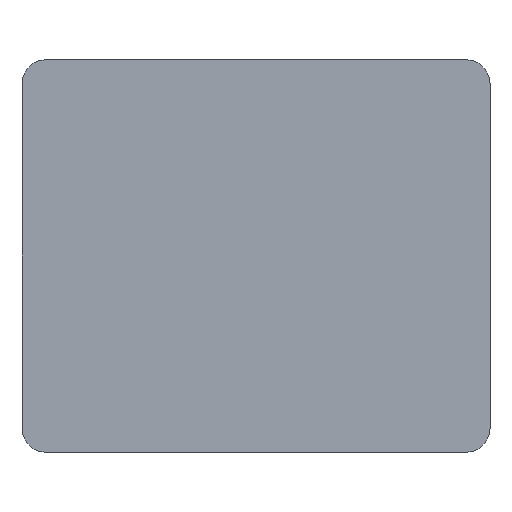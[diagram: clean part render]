
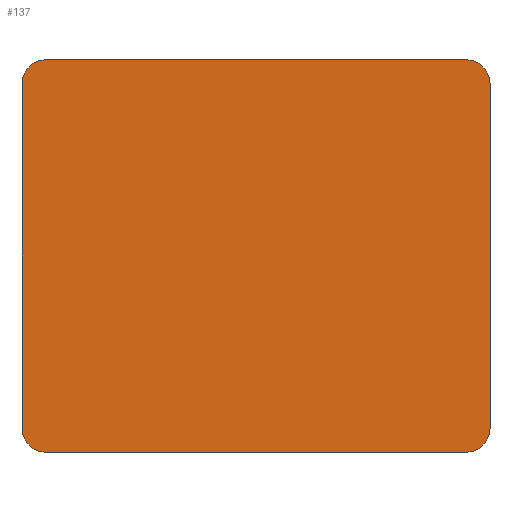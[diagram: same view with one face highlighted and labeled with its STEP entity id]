
A CAD part, front view. The second image highlights one B-rep face of the part: STEP entity #137.
In plain terms, the highlighted planar face has unit normal (0, -1, 0).
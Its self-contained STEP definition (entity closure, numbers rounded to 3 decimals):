
#21 = EDGE_CURVE('',#22,#24,#26,.T.);
#22 = VERTEX_POINT('',#23);
#23 = CARTESIAN_POINT('',(-46.5,-44.2,-32.4));
#24 = VERTEX_POINT('',#25);
#25 = CARTESIAN_POINT('',(-46.5,-44.2,-9.6));
#26 = SURFACE_CURVE('',#27,(#31,#43),.PCURVE_S1.);
#27 = LINE('',#28,#29);
#28 = CARTESIAN_POINT('',(-46.5,-44.2,-34.));
#29 = VECTOR('',#30,1.);
#30 = DIRECTION('',(0.,0.,1.));
#31 = PCURVE('',#32,#37);
#32 = PLANE('',#33);
#33 = AXIS2_PLACEMENT_3D('',#34,#35,#36);
#34 = CARTESIAN_POINT('',(-46.5,-44.2,-34.));
#35 = DIRECTION('',(-1.,-0.,0.));
#36 = DIRECTION('',(0.,0.,-1.));
#37 = DEFINITIONAL_REPRESENTATION('',(#38),#42);
#38 = LINE('',#39,#40);
#39 = CARTESIAN_POINT('',(-0.,-0.));
#40 = VECTOR('',#41,1.);
#41 = DIRECTION('',(-1.,-0.));
#42 = ( GEOMETRIC_REPRESENTATION_CONTEXT(2) 
PARAMETRIC_REPRESENTATION_CONTEXT() REPRESENTATION_CONTEXT('2D SPACE',''
  ) );
#43 = PCURVE('',#44,#49);
#44 = PLANE('',#45);
#45 = AXIS2_PLACEMENT_3D('',#46,#47,#48);
#46 = CARTESIAN_POINT('',(-46.5,-44.2,-34.));
#47 = DIRECTION('',(-0.,1.,0.));
#48 = DIRECTION('',(0.,0.,-1.));
#49 = DEFINITIONAL_REPRESENTATION('',(#50),#54);
#50 = LINE('',#51,#52);
#51 = CARTESIAN_POINT('',(-0.,-0.));
#52 = VECTOR('',#53,1.);
#53 = DIRECTION('',(-1.,0.));
#54 = ( GEOMETRIC_REPRESENTATION_CONTEXT(2) 
PARAMETRIC_REPRESENTATION_CONTEXT() REPRESENTATION_CONTEXT('2D SPACE',''
  ) );
#72 = CYLINDRICAL_SURFACE('',#73,1.6);
#73 = AXIS2_PLACEMENT_3D('',#74,#75,#76);
#74 = CARTESIAN_POINT('',(-48.1,-44.2,-32.4));
#75 = DIRECTION('',(-0.,1.,-0.));
#76 = DIRECTION('',(1.,-0.,-0.));
#126 = CYLINDRICAL_SURFACE('',#127,1.6);
#127 = AXIS2_PLACEMENT_3D('',#128,#129,#130);
#128 = CARTESIAN_POINT('',(-48.1,-44.2,-9.6));
#129 = DIRECTION('',(-0.,1.,-0.));
#130 = DIRECTION('',(1.,-0.,-0.));
#137 = ADVANCED_FACE('',(#138),#44,.F.);
#138 = FACE_BOUND('',#139,.T.);
#139 = EDGE_LOOP('',(#140,#170,#192,#193,#221,#249,#278,#306));
#140 = ORIENTED_EDGE('',*,*,#141,.F.);
#141 = EDGE_CURVE('',#142,#144,#146,.T.);
#142 = VERTEX_POINT('',#143);
#143 = CARTESIAN_POINT('',(-48.1,-44.2,-34.));
#144 = VERTEX_POINT('',#145);
#145 = CARTESIAN_POINT('',(-75.9,-44.2,-34.));
#146 = SURFACE_CURVE('',#147,(#151,#158),.PCURVE_S1.);
#147 = LINE('',#148,#149);
#148 = CARTESIAN_POINT('',(-46.5,-44.2,-34.));
#149 = VECTOR('',#150,1.);
#150 = DIRECTION('',(-1.,-0.,0.));
#151 = PCURVE('',#44,#152);
#152 = DEFINITIONAL_REPRESENTATION('',(#153),#157);
#153 = LINE('',#154,#155);
#154 = CARTESIAN_POINT('',(-0.,-0.));
#155 = VECTOR('',#156,1.);
#156 = DIRECTION('',(-0.,1.));
#157 = ( GEOMETRIC_REPRESENTATION_CONTEXT(2) 
PARAMETRIC_REPRESENTATION_CONTEXT() REPRESENTATION_CONTEXT('2D SPACE',''
  ) );
#158 = PCURVE('',#159,#164);
#159 = PLANE('',#160);
#160 = AXIS2_PLACEMENT_3D('',#161,#162,#163);
#161 = CARTESIAN_POINT('',(-46.5,-44.2,-34.));
#162 = DIRECTION('',(0.,0.,1.));
#163 = DIRECTION('',(1.,0.,0.));
#164 = DEFINITIONAL_REPRESENTATION('',(#165),#169);
#165 = LINE('',#166,#167);
#166 = CARTESIAN_POINT('',(0.,-0.));
#167 = VECTOR('',#168,1.);
#168 = DIRECTION('',(-1.,0.));
#169 = ( GEOMETRIC_REPRESENTATION_CONTEXT(2) 
PARAMETRIC_REPRESENTATION_CONTEXT() REPRESENTATION_CONTEXT('2D SPACE',''
  ) );
#170 = ORIENTED_EDGE('',*,*,#171,.F.);
#171 = EDGE_CURVE('',#22,#142,#172,.T.);
#172 = SURFACE_CURVE('',#173,(#178,#185),.PCURVE_S1.);
#173 = CIRCLE('',#174,1.6);
#174 = AXIS2_PLACEMENT_3D('',#175,#176,#177);
#175 = CARTESIAN_POINT('',(-48.1,-44.2,-32.4));
#176 = DIRECTION('',(0.,1.,0.));
#177 = DIRECTION('',(-0.,-0.,1.));
#178 = PCURVE('',#44,#179);
#179 = DEFINITIONAL_REPRESENTATION('',(#180),#184);
#180 = CIRCLE('',#181,1.6);
#181 = AXIS2_PLACEMENT_2D('',#182,#183);
#182 = CARTESIAN_POINT('',(-1.6,1.6));
#183 = DIRECTION('',(-1.,0.));
#184 = ( GEOMETRIC_REPRESENTATION_CONTEXT(2) 
PARAMETRIC_REPRESENTATION_CONTEXT() REPRESENTATION_CONTEXT('2D SPACE',''
  ) );
#185 = PCURVE('',#72,#186);
#186 = DEFINITIONAL_REPRESENTATION('',(#187),#191);
#187 = LINE('',#188,#189);
#188 = CARTESIAN_POINT('',(-1.571,0.));
#189 = VECTOR('',#190,1.);
#190 = DIRECTION('',(1.,0.));
#191 = ( GEOMETRIC_REPRESENTATION_CONTEXT(2) 
PARAMETRIC_REPRESENTATION_CONTEXT() REPRESENTATION_CONTEXT('2D SPACE',''
  ) );
#192 = ORIENTED_EDGE('',*,*,#21,.T.);
#193 = ORIENTED_EDGE('',*,*,#194,.T.);
#194 = EDGE_CURVE('',#24,#195,#197,.T.);
#195 = VERTEX_POINT('',#196);
#196 = CARTESIAN_POINT('',(-48.1,-44.2,-8.));
#197 = SURFACE_CURVE('',#198,(#203,#214),.PCURVE_S1.);
#198 = CIRCLE('',#199,1.6);
#199 = AXIS2_PLACEMENT_3D('',#200,#201,#202);
#200 = CARTESIAN_POINT('',(-48.1,-44.2,-9.6));
#201 = DIRECTION('',(0.,-1.,0.));
#202 = DIRECTION('',(-0.,-0.,1.));
#203 = PCURVE('',#44,#204);
#204 = DEFINITIONAL_REPRESENTATION('',(#205),#213);
#205 = ( BOUNDED_CURVE() B_SPLINE_CURVE(2,(#206,#207,#208,#209,#210,#211
,#212),.UNSPECIFIED.,.T.,.F.) B_SPLINE_CURVE_WITH_KNOTS((1,2,2,2,2,1),(
    -2.094,0.,2.094,4.189,6.283,
8.378),.UNSPECIFIED.) CURVE() GEOMETRIC_REPRESENTATION_ITEM() 
RATIONAL_B_SPLINE_CURVE((1.,0.5,1.,0.5,1.,0.5,1.)) REPRESENTATION_ITEM(
  '') );
#206 = CARTESIAN_POINT('',(-26.,1.6));
#207 = CARTESIAN_POINT('',(-26.,4.371));
#208 = CARTESIAN_POINT('',(-23.6,2.986));
#209 = CARTESIAN_POINT('',(-21.2,1.6));
#210 = CARTESIAN_POINT('',(-23.6,0.214));
#211 = CARTESIAN_POINT('',(-26.,-1.171));
#212 = CARTESIAN_POINT('',(-26.,1.6));
#213 = ( GEOMETRIC_REPRESENTATION_CONTEXT(2) 
PARAMETRIC_REPRESENTATION_CONTEXT() REPRESENTATION_CONTEXT('2D SPACE',''
  ) );
#214 = PCURVE('',#126,#215);
#215 = DEFINITIONAL_REPRESENTATION('',(#216),#220);
#216 = LINE('',#217,#218);
#217 = CARTESIAN_POINT('',(4.712,-0.));
#218 = VECTOR('',#219,1.);
#219 = DIRECTION('',(-1.,0.));
#220 = ( GEOMETRIC_REPRESENTATION_CONTEXT(2) 
PARAMETRIC_REPRESENTATION_CONTEXT() REPRESENTATION_CONTEXT('2D SPACE',''
  ) );
#221 = ORIENTED_EDGE('',*,*,#222,.T.);
#222 = EDGE_CURVE('',#195,#223,#225,.T.);
#223 = VERTEX_POINT('',#224);
#224 = CARTESIAN_POINT('',(-75.9,-44.2,-8.));
#225 = SURFACE_CURVE('',#226,(#230,#237),.PCURVE_S1.);
#226 = LINE('',#227,#228);
#227 = CARTESIAN_POINT('',(-46.5,-44.2,-8.));
#228 = VECTOR('',#229,1.);
#229 = DIRECTION('',(-1.,-0.,0.));
#230 = PCURVE('',#44,#231);
#231 = DEFINITIONAL_REPRESENTATION('',(#232),#236);
#232 = LINE('',#233,#234);
#233 = CARTESIAN_POINT('',(-26.,-0.));
#234 = VECTOR('',#235,1.);
#235 = DIRECTION('',(-0.,1.));
#236 = ( GEOMETRIC_REPRESENTATION_CONTEXT(2) 
PARAMETRIC_REPRESENTATION_CONTEXT() REPRESENTATION_CONTEXT('2D SPACE',''
  ) );
#237 = PCURVE('',#238,#243);
#238 = PLANE('',#239);
#239 = AXIS2_PLACEMENT_3D('',#240,#241,#242);
#240 = CARTESIAN_POINT('',(-46.5,-44.2,-8.));
#241 = DIRECTION('',(0.,0.,1.));
#242 = DIRECTION('',(1.,0.,0.));
#243 = DEFINITIONAL_REPRESENTATION('',(#244),#248);
#244 = LINE('',#245,#246);
#245 = CARTESIAN_POINT('',(0.,-0.));
#246 = VECTOR('',#247,1.);
#247 = DIRECTION('',(-1.,0.));
#248 = ( GEOMETRIC_REPRESENTATION_CONTEXT(2) 
PARAMETRIC_REPRESENTATION_CONTEXT() REPRESENTATION_CONTEXT('2D SPACE',''
  ) );
#249 = ORIENTED_EDGE('',*,*,#250,.F.);
#250 = EDGE_CURVE('',#251,#223,#253,.T.);
#251 = VERTEX_POINT('',#252);
#252 = CARTESIAN_POINT('',(-77.5,-44.2,-9.6));
#253 = SURFACE_CURVE('',#254,(#259,#266),.PCURVE_S1.);
#254 = CIRCLE('',#255,1.6);
#255 = AXIS2_PLACEMENT_3D('',#256,#257,#258);
#256 = CARTESIAN_POINT('',(-75.9,-44.2,-9.6));
#257 = DIRECTION('',(0.,1.,0.));
#258 = DIRECTION('',(-0.,-0.,1.));
#259 = PCURVE('',#44,#260);
#260 = DEFINITIONAL_REPRESENTATION('',(#261),#265);
#261 = CIRCLE('',#262,1.6);
#262 = AXIS2_PLACEMENT_2D('',#263,#264);
#263 = CARTESIAN_POINT('',(-24.4,29.4));
#264 = DIRECTION('',(-1.,0.));
#265 = ( GEOMETRIC_REPRESENTATION_CONTEXT(2) 
PARAMETRIC_REPRESENTATION_CONTEXT() REPRESENTATION_CONTEXT('2D SPACE',''
  ) );
#266 = PCURVE('',#267,#272);
#267 = CYLINDRICAL_SURFACE('',#268,1.6);
#268 = AXIS2_PLACEMENT_3D('',#269,#270,#271);
#269 = CARTESIAN_POINT('',(-75.9,-44.2,-9.6));
#270 = DIRECTION('',(-0.,1.,-0.));
#271 = DIRECTION('',(-1.,-0.,-0.));
#272 = DEFINITIONAL_REPRESENTATION('',(#273),#277);
#273 = LINE('',#274,#275);
#274 = CARTESIAN_POINT('',(-4.712,0.));
#275 = VECTOR('',#276,1.);
#276 = DIRECTION('',(1.,0.));
#277 = ( GEOMETRIC_REPRESENTATION_CONTEXT(2) 
PARAMETRIC_REPRESENTATION_CONTEXT() REPRESENTATION_CONTEXT('2D SPACE',''
  ) );
#278 = ORIENTED_EDGE('',*,*,#279,.F.);
#279 = EDGE_CURVE('',#280,#251,#282,.T.);
#280 = VERTEX_POINT('',#281);
#281 = CARTESIAN_POINT('',(-77.5,-44.2,-32.4));
#282 = SURFACE_CURVE('',#283,(#287,#294),.PCURVE_S1.);
#283 = LINE('',#284,#285);
#284 = CARTESIAN_POINT('',(-77.5,-44.2,-34.));
#285 = VECTOR('',#286,1.);
#286 = DIRECTION('',(0.,0.,1.));
#287 = PCURVE('',#44,#288);
#288 = DEFINITIONAL_REPRESENTATION('',(#289),#293);
#289 = LINE('',#290,#291);
#290 = CARTESIAN_POINT('',(-0.,31.));
#291 = VECTOR('',#292,1.);
#292 = DIRECTION('',(-1.,0.));
#293 = ( GEOMETRIC_REPRESENTATION_CONTEXT(2) 
PARAMETRIC_REPRESENTATION_CONTEXT() REPRESENTATION_CONTEXT('2D SPACE',''
  ) );
#294 = PCURVE('',#295,#300);
#295 = PLANE('',#296);
#296 = AXIS2_PLACEMENT_3D('',#297,#298,#299);
#297 = CARTESIAN_POINT('',(-77.5,-44.2,-34.));
#298 = DIRECTION('',(-1.,-0.,0.));
#299 = DIRECTION('',(0.,0.,-1.));
#300 = DEFINITIONAL_REPRESENTATION('',(#301),#305);
#301 = LINE('',#302,#303);
#302 = CARTESIAN_POINT('',(-0.,-0.));
#303 = VECTOR('',#304,1.);
#304 = DIRECTION('',(-1.,-0.));
#305 = ( GEOMETRIC_REPRESENTATION_CONTEXT(2) 
PARAMETRIC_REPRESENTATION_CONTEXT() REPRESENTATION_CONTEXT('2D SPACE',''
  ) );
#306 = ORIENTED_EDGE('',*,*,#307,.T.);
#307 = EDGE_CURVE('',#280,#144,#308,.T.);
#308 = SURFACE_CURVE('',#309,(#314,#325),.PCURVE_S1.);
#309 = CIRCLE('',#310,1.6);
#310 = AXIS2_PLACEMENT_3D('',#311,#312,#313);
#311 = CARTESIAN_POINT('',(-75.9,-44.2,-32.4));
#312 = DIRECTION('',(0.,-1.,0.));
#313 = DIRECTION('',(-0.,-0.,1.));
#314 = PCURVE('',#44,#315);
#315 = DEFINITIONAL_REPRESENTATION('',(#316),#324);
#316 = ( BOUNDED_CURVE() B_SPLINE_CURVE(2,(#317,#318,#319,#320,#321,#322
,#323),.UNSPECIFIED.,.T.,.F.) B_SPLINE_CURVE_WITH_KNOTS((1,2,2,2,2,1),(
    -2.094,0.,2.094,4.189,6.283,
8.378),.UNSPECIFIED.) CURVE() GEOMETRIC_REPRESENTATION_ITEM() 
RATIONAL_B_SPLINE_CURVE((1.,0.5,1.,0.5,1.,0.5,1.)) REPRESENTATION_ITEM(
  '') );
#317 = CARTESIAN_POINT('',(-3.2,29.4));
#318 = CARTESIAN_POINT('',(-3.2,32.171));
#319 = CARTESIAN_POINT('',(-0.8,30.786));
#320 = CARTESIAN_POINT('',(1.6,29.4));
#321 = CARTESIAN_POINT('',(-0.8,28.014));
#322 = CARTESIAN_POINT('',(-3.2,26.629));
#323 = CARTESIAN_POINT('',(-3.2,29.4));
#324 = ( GEOMETRIC_REPRESENTATION_CONTEXT(2) 
PARAMETRIC_REPRESENTATION_CONTEXT() REPRESENTATION_CONTEXT('2D SPACE',''
  ) );
#325 = PCURVE('',#326,#331);
#326 = CYLINDRICAL_SURFACE('',#327,1.6);
#327 = AXIS2_PLACEMENT_3D('',#328,#329,#330);
#328 = CARTESIAN_POINT('',(-75.9,-44.2,-32.4));
#329 = DIRECTION('',(-0.,1.,-0.));
#330 = DIRECTION('',(-1.,-0.,-0.));
#331 = DEFINITIONAL_REPRESENTATION('',(#332),#336);
#332 = LINE('',#333,#334);
#333 = CARTESIAN_POINT('',(1.571,-0.));
#334 = VECTOR('',#335,1.);
#335 = DIRECTION('',(-1.,0.));
#336 = ( GEOMETRIC_REPRESENTATION_CONTEXT(2) 
PARAMETRIC_REPRESENTATION_CONTEXT() REPRESENTATION_CONTEXT('2D SPACE',''
  ) );
